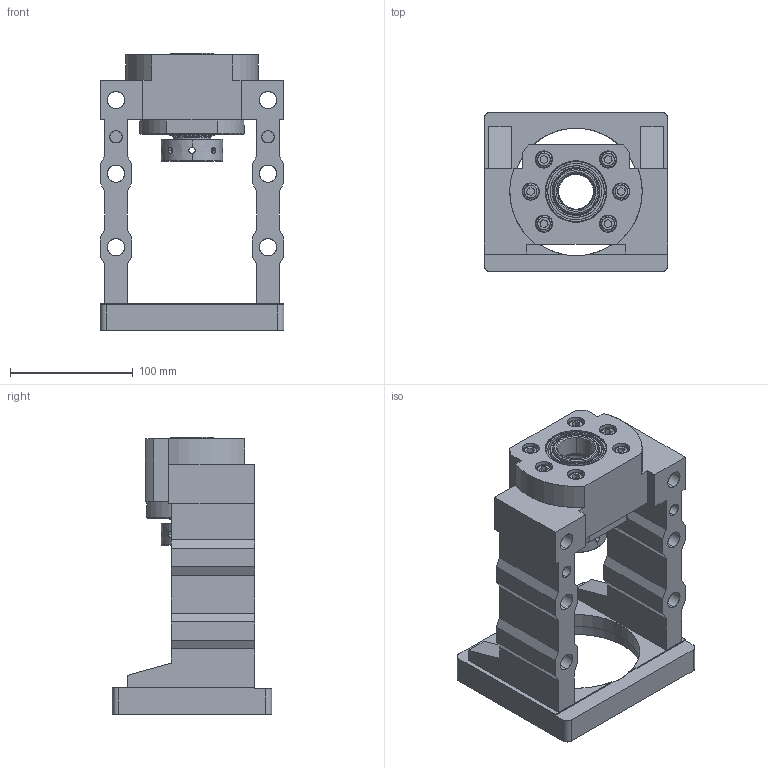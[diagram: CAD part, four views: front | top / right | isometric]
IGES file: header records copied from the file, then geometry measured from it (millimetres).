
Start section: SolidWorks IGES file using analytic representation for surfaces
Bounding box: 150 x 130 x 226 mm (x, y, z)
Surface area: 194027.7 mm2 (no closed solid volume)
Topology: 0 solids, 0 shells, 355 faces, 6202 edges, 6194 vertices
Faces by surface type: revolution 186, bspline 169
